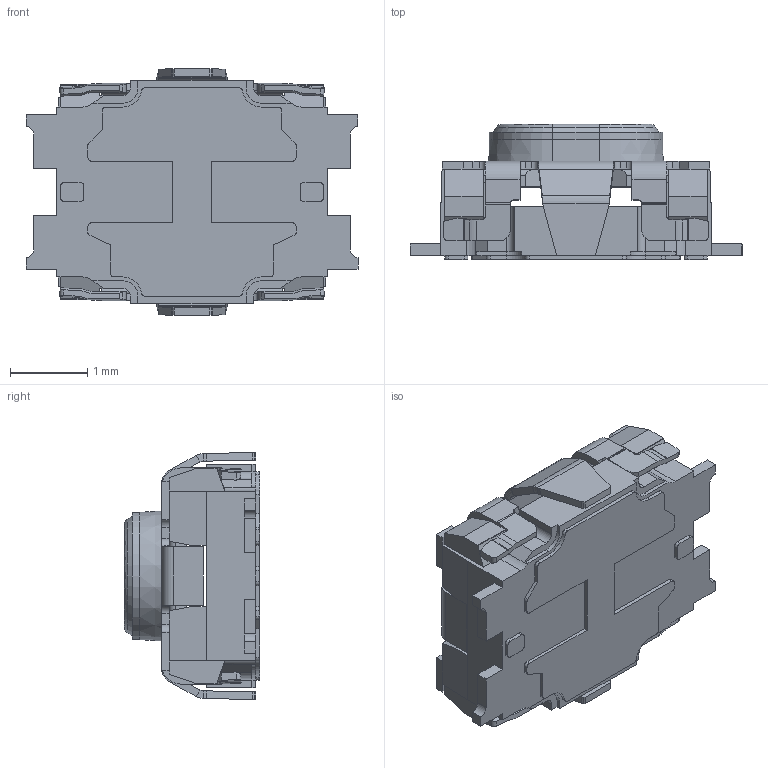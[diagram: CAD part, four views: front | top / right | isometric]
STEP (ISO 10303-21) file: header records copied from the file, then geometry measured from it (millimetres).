
FILE_DESCRIPTION (( 'STEP AP214' ), '1' );
FILE_NAME ('SKTHAE_h1.75.STEP', '2017-12-01T09:08:24', ( 'user' ), ( 'Hewlett-Packard Company' ), 'SwSTEP 2.0', 'SolidWorks 2014', '' );
FILE_SCHEMA (( 'AUTOMOTIVE_DESIGN' ));
Length unit declared in the file: millimetre
Products named in the file (1): SKTHAE_h1.75
Bounding box: 4.3 x 1.75 x 3.2 mm (x, y, z)
Volume: 10.8 mm3; surface area: 70.7 mm2
Topology: 1 solids, 1 shells, 559 faces, 1591 edges, 1018 vertices
Faces by surface type: plane 340, cylinder 173, bspline 38, cone 8
Entity records: 24980 total; most frequent: CARTESIAN_POINT 4443, ORIENTED_EDGE 3182, DIRECTION 2799, EDGE_CURVE 1591, VECTOR 1139, LINE 1139, VERTEX_POINT 1018, AXIS2_PLACEMENT_3D 830
